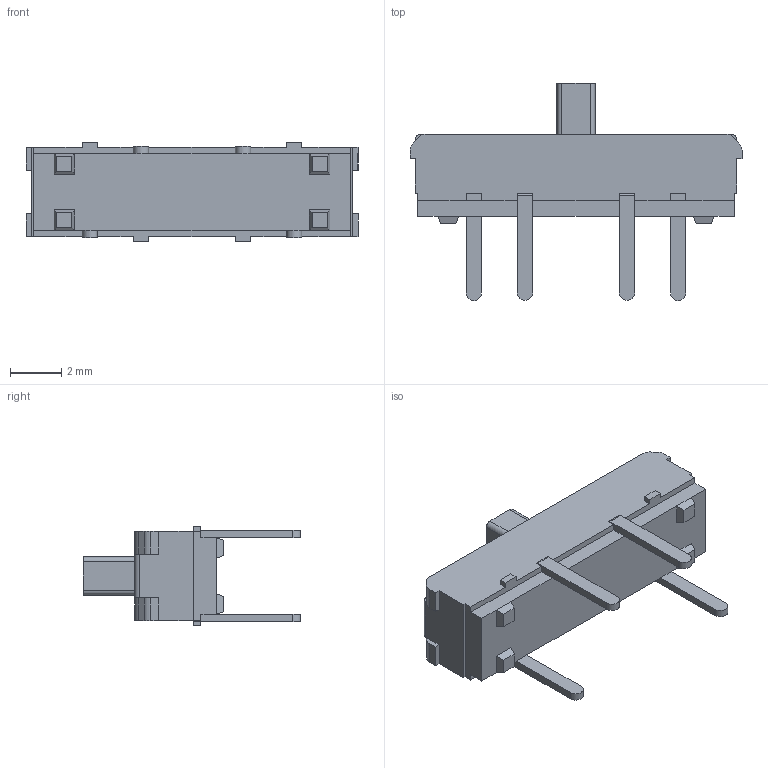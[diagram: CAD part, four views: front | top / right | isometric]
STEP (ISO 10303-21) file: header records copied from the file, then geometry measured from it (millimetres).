
FILE_DESCRIPTION (( 'STEP AP214' ), '1' );
FILE_NAME ('SSSS211900STEP.STEP', '2016-05-09T02:52:55', ( 'user' ), ( '' ), 'SwSTEP 2.0', 'SolidWorks 2014', '' );
FILE_SCHEMA (( 'AUTOMOTIVE_DESIGN' ));
Length unit declared in the file: millimetre
Products named in the file (1): SSSS211900STEP
Bounding box: 13 x 8.5 x 3.9 mm (x, y, z)
Volume: 137.2 mm3; surface area: 254.3 mm2
Topology: 1 solids, 1 shells, 126 faces, 346 edges, 224 vertices
Faces by surface type: plane 104, cylinder 22
Entity records: 5354 total; most frequent: CARTESIAN_POINT 697, ORIENTED_EDGE 692, DIRECTION 644, EDGE_CURVE 346, LINE 302, VECTOR 302, VERTEX_POINT 224, AXIS2_PLACEMENT_3D 171
